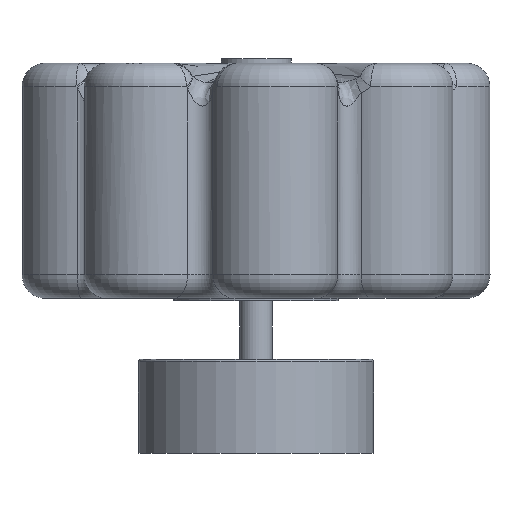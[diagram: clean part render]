
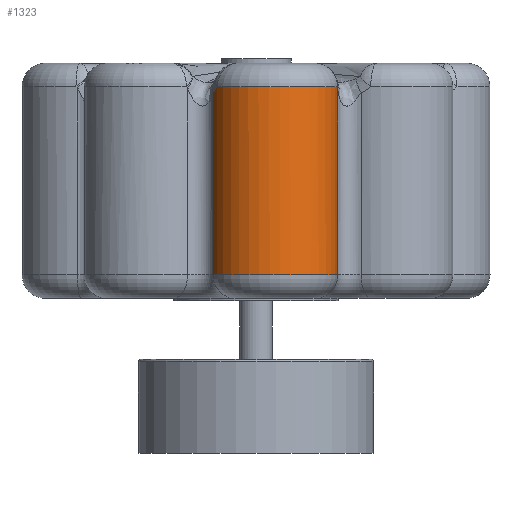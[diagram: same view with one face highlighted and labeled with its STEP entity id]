
A CAD part, front view. The second image highlights one B-rep face of the part: STEP entity #1323.
In plain terms, the highlighted cylindrical face has radius 27.5 mm (diameter 55 mm), a partial arc.
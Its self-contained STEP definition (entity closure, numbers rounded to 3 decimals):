
#847 = CARTESIAN_POINT ( 'NONE',  ( -12.213, -67.016, 250. ) ) ;
#848 = AXIS2_PLACEMENT_3D ( 'NONE', #1289, #6434, #2626 ) ;
#853 = CARTESIAN_POINT ( 'NONE',  ( 40.99, -67.667, 240. ) ) ;
#961 = VERTEX_POINT ( 'NONE', #4970 ) ;
#1233 = FACE_OUTER_BOUND ( 'NONE', #2283, .T. ) ;
#1289 = CARTESIAN_POINT ( 'NONE',  ( 14.474, -60.378, 250. ) ) ;
#1323 = ADVANCED_FACE ( 'NONE', ( #1233 ), #4800, .T. ) ;
#1354 = B_SPLINE_CURVE_WITH_KNOTS ( 'NONE', 3,
 ( #6302, #2486, #6910, #3114 ),
 .UNSPECIFIED., .F., .F.,
 ( 4, 4 ),
 ( 0., 0.001 ),
 .UNSPECIFIED. ) ;
#1433 = CARTESIAN_POINT ( 'NONE',  ( -10.812, -71.188, 240. ) ) ;
#1591 = CARTESIAN_POINT ( 'NONE',  ( 41.161, -67.016, 239.55 ) ) ;
#1924 = EDGE_CURVE ( 'NONE', #2639, #4616, #5882, .T. ) ;
#2104 = EDGE_CURVE ( 'NONE', #3171, #961, #4305, .T. ) ;
#2239 = CARTESIAN_POINT ( 'NONE',  ( 14.474, -60.378, 160. ) ) ;
#2283 = EDGE_LOOP ( 'NONE', ( #4253, #3717, #6724, #7698, #3967, #5172 ) ) ;
#2418 = VECTOR ( 'NONE', #5251, 1000. ) ;
#2454 = CARTESIAN_POINT ( 'NONE',  ( -11.803, -68.523, 238.166 ) ) ;
#2486 = CARTESIAN_POINT ( 'NONE',  ( 41.106, -67.238, 239.694 ) ) ;
#2626 = DIRECTION ( 'NONE',  ( -1., 0., 0. ) ) ;
#2639 = VERTEX_POINT ( 'NONE', #1591 ) ;
#2848 = DIRECTION ( 'NONE',  ( 1., 0., 0. ) ) ;
#3110 = CARTESIAN_POINT ( 'NONE',  ( -12.021, -67.787, 237.807 ) ) ;
#3114 = CARTESIAN_POINT ( 'NONE',  ( 40.99, -67.667, 240. ) ) ;
#3171 = VERTEX_POINT ( 'NONE', #3480 ) ;
#3480 = CARTESIAN_POINT ( 'NONE',  ( -12.213, -67.016, 237.492 ) ) ;
#3489 = DIRECTION ( 'NONE',  ( 0., 0., 1. ) ) ;
#3650 = DIRECTION ( 'NONE',  ( 0., 0., -1. ) ) ;
#3717 = ORIENTED_EDGE ( 'NONE', *, *, #7063, .T. ) ;
#3967 = ORIENTED_EDGE ( 'NONE', *, *, #2104, .T. ) ;
#4253 = ORIENTED_EDGE ( 'NONE', *, *, #1924, .F. ) ;
#4258 = VERTEX_POINT ( 'NONE', #1433 ) ;
#4305 = LINE ( 'NONE', #847, #2418 ) ;
#4616 = VERTEX_POINT ( 'NONE', #6417 ) ;
#4784 = CIRCLE ( 'NONE', #7415, 27.5 ) ;
#4797 = VECTOR ( 'NONE', #3650, 1000. ) ;
#4800 = CYLINDRICAL_SURFACE ( 'NONE', #848, 27.5 ) ;
#4970 = CARTESIAN_POINT ( 'NONE',  ( -12.213, -67.016, 160. ) ) ;
#5074 = CARTESIAN_POINT ( 'NONE',  ( 14.474, -60.378, 240. ) ) ;
#5113 = AXIS2_PLACEMENT_3D ( 'NONE', #2239, #3489, #2848 ) ;
#5164 = VERTEX_POINT ( 'NONE', #853 ) ;
#5172 = ORIENTED_EDGE ( 'NONE', *, *, #5765, .T. ) ;
#5251 = DIRECTION ( 'NONE',  ( 0., 0., -1. ) ) ;
#5400 = EDGE_CURVE ( 'NONE', #4258, #3171, #6678, .T. ) ;
#5764 = DIRECTION ( 'NONE',  ( 1., 0., 0. ) ) ;
#5765 = EDGE_CURVE ( 'NONE', #961, #4616, #6795, .T. ) ;
#5882 = LINE ( 'NONE', #7456, #4797 ) ;
#6223 = CARTESIAN_POINT ( 'NONE',  ( -11.074, -70.576, 239.46 ) ) ;
#6302 = CARTESIAN_POINT ( 'NONE',  ( 41.161, -67.016, 239.55 ) ) ;
#6354 = DIRECTION ( 'NONE',  ( 0., 0., -1. ) ) ;
#6417 = CARTESIAN_POINT ( 'NONE',  ( 41.161, -67.016, 160. ) ) ;
#6434 = DIRECTION ( 'NONE',  ( 0., 0., -1. ) ) ;
#6678 = B_SPLINE_CURVE_WITH_KNOTS ( 'NONE', 3,
 ( #7970, #6223, #6855, #2454, #3110, #6882 ),
 .UNSPECIFIED., .F., .F.,
 ( 4, 2, 4 ),
 ( 0., 0.003, 0.005 ),
 .UNSPECIFIED. ) ;
#6724 = ORIENTED_EDGE ( 'NONE', *, *, #7961, .T. ) ;
#6795 = CIRCLE ( 'NONE', #5113, 27.5 ) ;
#6855 = CARTESIAN_POINT ( 'NONE',  ( -11.329, -69.917, 238.992 ) ) ;
#6882 = CARTESIAN_POINT ( 'NONE',  ( -12.213, -67.016, 237.492 ) ) ;
#6910 = CARTESIAN_POINT ( 'NONE',  ( 41.049, -67.455, 239.844 ) ) ;
#7063 = EDGE_CURVE ( 'NONE', #2639, #5164, #1354, .T. ) ;
#7415 = AXIS2_PLACEMENT_3D ( 'NONE', #5074, #6354, #5764 ) ;
#7456 = CARTESIAN_POINT ( 'NONE',  ( 41.161, -67.016, 250. ) ) ;
#7698 = ORIENTED_EDGE ( 'NONE', *, *, #5400, .T. ) ;
#7961 = EDGE_CURVE ( 'NONE', #5164, #4258, #4784, .T. ) ;
#7970 = CARTESIAN_POINT ( 'NONE',  ( -10.812, -71.188, 240. ) ) ;
